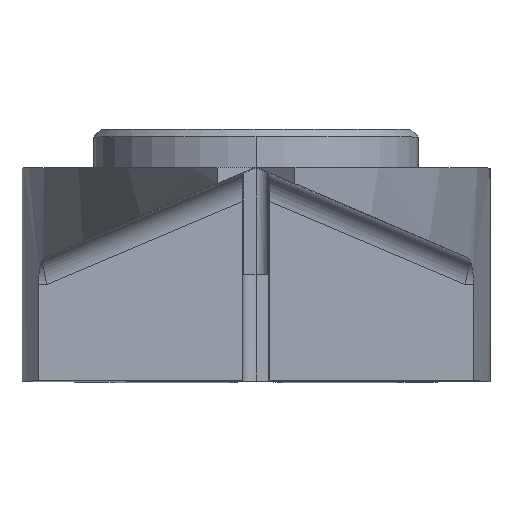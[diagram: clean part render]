
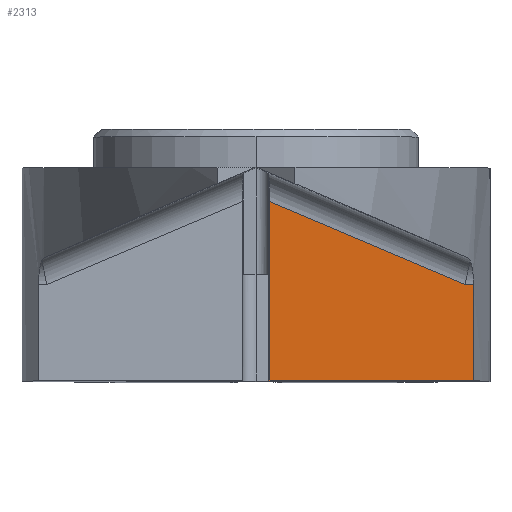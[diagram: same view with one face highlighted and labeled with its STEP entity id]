
A CAD part, top view. The second image highlights one B-rep face of the part: STEP entity #2313.
In plain terms, the highlighted planar face has unit normal (0, 0, 1).
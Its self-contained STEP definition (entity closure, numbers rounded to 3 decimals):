
#55 = DIRECTION ( 'NONE',  ( -1., 0., 0. ) ) ;
#72 = CARTESIAN_POINT ( 'NONE',  ( 8.042, 3.7, 12. ) ) ;
#277 = DIRECTION ( 'NONE',  ( 0., -1., 0. ) ) ;
#339 = CARTESIAN_POINT ( 'NONE',  ( 8.362, 0., 12. ) ) ;
#922 = CARTESIAN_POINT ( 'NONE',  ( 8.042, 3.7, 12. ) ) ;
#953 = ORIENTED_EDGE ( 'NONE', *, *, #3496, .T. ) ;
#1188 = CARTESIAN_POINT ( 'NONE',  ( 3.014, 5.834, 12. ) ) ;
#1190 = CARTESIAN_POINT ( 'NONE',  ( 4.431, 3.7, 12. ) ) ;
#1295 = LINE ( 'NONE', #4218, #2369 ) ;
#1306 = ORIENTED_EDGE ( 'NONE', *, *, #3479, .F. ) ;
#1503 = PLANE ( 'NONE',  #1705 ) ;
#1705 = AXIS2_PLACEMENT_3D ( 'NONE', #3980, #4272, #4097 ) ;
#1815 = VECTOR ( 'NONE', #55, 1000. ) ;
#1959 = DIRECTION ( 'NONE',  ( -1., 0., 0. ) ) ;
#2256 = CARTESIAN_POINT ( 'NONE',  ( 0.5, 6.901, 12. ) ) ;
#2313 = ADVANCED_FACE ( 'NONE', ( #2332 ), #1503, .T. ) ;
#2332 = FACE_OUTER_BOUND ( 'NONE', #2527, .T. ) ;
#2369 = VECTOR ( 'NONE', #277, 1000. ) ;
#2475 = EDGE_CURVE ( 'NONE', #4629, #3454, #2726, .T. ) ;
#2527 = EDGE_LOOP ( 'NONE', ( #3554, #3141, #953, #3457, #1306 ) ) ;
#2726 = LINE ( 'NONE', #4044, #3532 ) ;
#3141 = ORIENTED_EDGE ( 'NONE', *, *, #4517, .F. ) ;
#3177 = VERTEX_POINT ( 'NONE', #2256 ) ;
#3238 = VERTEX_POINT ( 'NONE', #3677 ) ;
#3268 = DIRECTION ( 'NONE',  ( 0., 1., 0. ) ) ;
#3454 = VERTEX_POINT ( 'NONE', #4523 ) ;
#3457 = ORIENTED_EDGE ( 'NONE', *, *, #4260, .T. ) ;
#3479 = EDGE_CURVE ( 'NONE', #3454, #3177, #4638, .T. ) ;
#3496 = EDGE_CURVE ( 'NONE', #3238, #4043, #3577, .T. ) ;
#3532 = VECTOR ( 'NONE', #1959, 1000. ) ;
#3554 = ORIENTED_EDGE ( 'NONE', *, *, #2475, .F. ) ;
#3577 = LINE ( 'NONE', #1190, #1815 ) ;
#3633 = CARTESIAN_POINT ( 'NONE',  ( 0.5, 4.1, 12. ) ) ;
#3651 = B_SPLINE_CURVE_WITH_KNOTS ( 'NONE', 3,
 ( #72, #4001, #1188, #3663 ),
 .UNSPECIFIED., .F., .F.,
 ( 4, 4 ),
 ( 0., 1. ),
 .UNSPECIFIED. ) ;
#3663 = CARTESIAN_POINT ( 'NONE',  ( 0.5, 6.901, 12. ) ) ;
#3677 = CARTESIAN_POINT ( 'NONE',  ( 8.362, 3.7, 12. ) ) ;
#3804 = VECTOR ( 'NONE', #3268, 1000. ) ;
#3980 = CARTESIAN_POINT ( 'NONE',  ( 0.5, 0., 12. ) ) ;
#4001 = CARTESIAN_POINT ( 'NONE',  ( 5.528, 4.767, 12. ) ) ;
#4043 = VERTEX_POINT ( 'NONE', #922 ) ;
#4044 = CARTESIAN_POINT ( 'NONE',  ( 4.724, 0., 12. ) ) ;
#4097 = DIRECTION ( 'NONE',  ( 1., 0., 0. ) ) ;
#4218 = CARTESIAN_POINT ( 'NONE',  ( 8.362, 4.1, 12. ) ) ;
#4260 = EDGE_CURVE ( 'NONE', #4043, #3177, #3651, .T. ) ;
#4272 = DIRECTION ( 'NONE',  ( 0., 0., 1. ) ) ;
#4517 = EDGE_CURVE ( 'NONE', #3238, #4629, #1295, .T. ) ;
#4523 = CARTESIAN_POINT ( 'NONE',  ( 0.5, 0., 12. ) ) ;
#4629 = VERTEX_POINT ( 'NONE', #339 ) ;
#4638 = LINE ( 'NONE', #3633, #3804 ) ;
